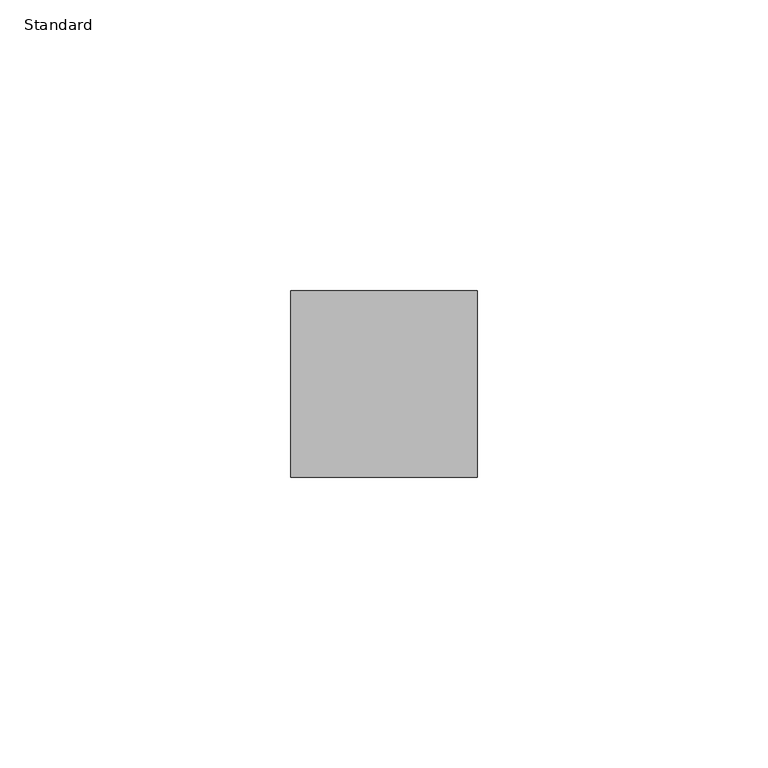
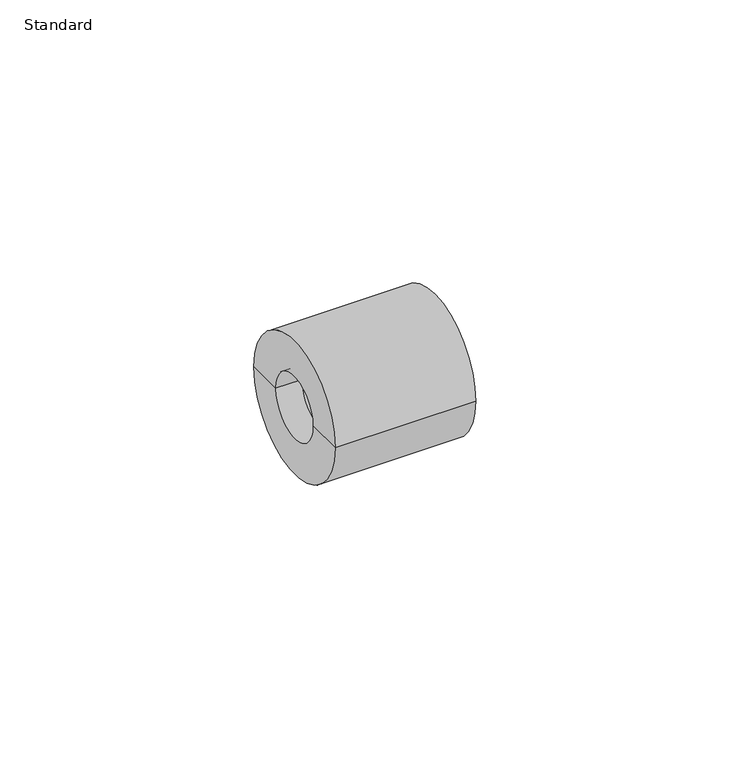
"""IFC4 building model written with IfcOpenShell, lengths in millimetres: pipe fitting geometry, Durapipe_PipeFitting_PVC_ReducingBush : Standard."""

from ifc_helpers import new_model, si_unit, frame, origin, place, context, project, spatial, polyline, circle_curve, source, transform, mapped, element, save
from ifc_brep_helpers import plane_surface, cylinder_surface, revolved_surface, advanced_brep


def standard_ad03d6cd(model_context):
    return source(origin(), model_context, "Body", "AdvancedBrep", [
        advanced_brep(
        [(-6.0, -7.5, 0.0), (-6.0, 7.5, 0.0), (-6.0, 16.0, 0.0), (-6.0, -16.0, 0.0), (0.0, -7.5, 0.0), (0.0, 7.5, 0.0), (0.0, -10.0, 0.0), (0.0, 10.0, 0.0), (26.0, -10.0, 0.0), (26.0, 10.0, 0.0), (26.0, -16.0, 0.0), (26.0, 16.0, 0.0)],
        [
            (0, 1, circle_curve(frame((-6.0, 0.0, 0.0), z_axis=(1.0, 0.0, 0.0), x_axis=(0.0, 1.0, 0.0)), 7.5)),
            (1, 2),
            (2, 3, circle_curve(frame((-6.0, 0.0, 0.0), z_axis=(-1.0, 0.0, 0.0), x_axis=(0.0, 1.0, 0.0)), 16.0)),
            (3, 0),
            (1, 0, circle_curve(frame((-6.0, 0.0, 0.0), z_axis=(1.0, 0.0, 0.0), x_axis=(0.0, 1.0, 0.0)), 7.5)),
            (3, 2, circle_curve(frame((-6.0, 0.0, 0.0), z_axis=(-1.0, 0.0, 0.0), x_axis=(0.0, 1.0, 0.0)), 16.0)),
            (4, 5, circle_curve(frame((0.0, 0.0, 0.0), z_axis=(1.0, 0.0, 0.0), x_axis=(0.0, 1.0, 0.0)), 7.5)),
            (5, 1),
            (0, 4),
            (5, 4, circle_curve(frame((0.0, 0.0, 0.0), z_axis=(1.0, 0.0, 0.0), x_axis=(0.0, 1.0, 0.0)), 7.5)),
            (6, 7, circle_curve(frame((0.0, 0.0, 0.0), z_axis=(1.0, 0.0, 0.0), x_axis=(0.0, 1.0, 0.0)), 10.0)),
            (7, 5),
            (4, 6),
            (7, 6, circle_curve(frame((0.0, 0.0, 0.0), z_axis=(1.0, 0.0, 0.0), x_axis=(0.0, 1.0, 0.0)), 10.0)),
            (8, 9, circle_curve(frame((26.0, 0.0, 0.0), z_axis=(1.0, 0.0, 0.0), x_axis=(0.0, 1.0, 0.0)), 10.0)),
            (9, 7),
            (6, 8),
            (9, 8, circle_curve(frame((26.0, 0.0, 0.0), z_axis=(1.0, 0.0, 0.0), x_axis=(0.0, 1.0, 0.0)), 10.0)),
            (10, 11, circle_curve(frame((26.0, 0.0, 0.0), z_axis=(1.0, 0.0, 0.0), x_axis=(0.0, 1.0, 0.0)), 16.0)),
            (11, 9),
            (8, 10),
            (11, 10, circle_curve(frame((26.0, 0.0, 0.0), z_axis=(1.0, 0.0, 0.0), x_axis=(0.0, 1.0, 0.0)), 16.0)),
            (2, 11),
            (10, 3),
        ],
        [
            plane_surface(frame((-6.0, 0.0, 0.0), z_axis=(-1.0, 0.0, 0.0), x_axis=(0.0, 1.0, 0.0))),
            revolved_surface(polyline([(-6.0, 7.5, 0.0), (0.0, 7.5, 0.0)]), (2012.0, 0.0, 0.0), (-1.0, 0.0, 0.0)),
            plane_surface(frame((0.0, 0.0, 0.0), z_axis=(1.0, 0.0, 0.0), x_axis=(0.0, 1.0, 0.0))),
            revolved_surface(polyline([(0.0, 10.0, 0.0), (26.0, 10.0, 0.0)]), (2012.0, 0.0, 0.0), (-1.0, 0.0, 0.0)),
            plane_surface(frame((26.0, 0.0, 0.0), z_axis=(1.0, 0.0, 0.0), x_axis=(0.0, 1.0, 0.0))),
            cylinder_surface(frame((2012.0, 0.0, 0.0), z_axis=(-1.0, 0.0, 0.0), x_axis=(0.0, 1.0, 0.0)), 16.0),
        ],
        [
            (0, [[1, 2, 3, 4]]),
            (0, [[5, -4, 6, -2]]),
            (1, [[7, 8, -1, 9]]),
            (1, [[10, -9, -5, -8]]),
            (2, [[11, 12, -7, 13]]),
            (2, [[14, -13, -10, -12]]),
            (3, [[15, 16, -11, 17]]),
            (3, [[18, -17, -14, -16]]),
            (4, [[19, 20, -15, 21]]),
            (4, [[22, -21, -18, -20]]),
            (5, [[-3, 23, -19, 24]]),
            (5, [[-6, -24, -22, -23]]),
        ],
    ),
    ])


if __name__ == "__main__":
    model = new_model("IFC4")
    model_context = context("Model", 3, world=origin())
    ifc_project = project(units=[si_unit("LENGTHUNIT", "METRE", prefix="MILLI")], contexts=[model_context])
    site = spatial("IfcSite", under=ifc_project)
    building = spatial("IfcBuilding", under=site)
    placement = place(None, origin())
    standard_shape = standard_ad03d6cd(model_context)
    element("IfcPipeFitting", 1, ObjectType="Durapipe_PipeFitting_PVC_ReducingBush : Standard", at=placement, inside=building, context=model_context, shape_type="MappedRepresentation", body=[
        mapped(standard_shape, transform((0.0, 0.0, 0.0), x_axis=(1.0, 0.0, 0.0), y_axis=(0.0, 1.0, 0.0), z_axis=(0.0, 0.0, 1.0))),
    ])
    save(model, "model.ifc")
